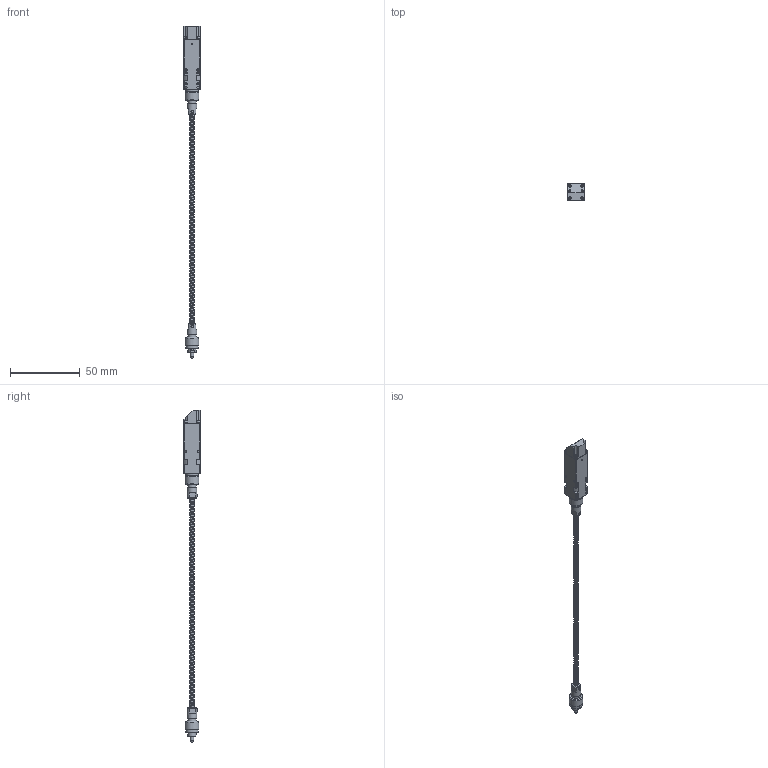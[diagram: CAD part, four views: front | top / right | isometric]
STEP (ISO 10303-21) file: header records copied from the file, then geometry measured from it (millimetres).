
FILE_DESCRIPTION(/* description */ ('IFS2407-2HT/VAC'),/* implementation_level */ '2;1');
FILE_NAME(/* name */ '104319_IFS2407_90-2HT_VAC.stp',/* time_stamp */ '2025-11-28T08:42:00+01:00',/* author */ ('sven'),/* organization */ (''),/* preprocessor_version */ 'ST-DEVELOPER v20.1',/* originating_system */ 'Autodesk Inventor 2026',/* authorisation */ '');
FILE_SCHEMA (('AUTOMOTIVE_DESIGN { 1 0 10303 214 3 1 1 }'));
Products named in the file (7): 104317_IFS2407-2HT-VAC_step; Z_104335.00_Fassung; DIN 914 - M2 x 3; 90010378-1CUS_HTFaser; Linse; 103448_deflectionunit; DIN 84 - M1,4 x 2
Assembly tree (17 placements, depth 2):
  104317_IFS2407-2HT-VAC_step
    Z_104335.00_Fassung
    DIN 914 - M2 x 3  x9
    90010378-1CUS_HTFaser
    Linse
    103448_deflectionunit
    DIN 84 - M1,4 x 2  x4
Bounding box: 12 x 12 x 237.91 mm (x, y, z)
Volume: 8307.5 mm3; surface area: 10129.4 mm2
Topology: 17 solids, 19 shells, 339 faces, 859 edges, 562 vertices
Faces by surface type: plane 168, cylinder 92, cone 63, bspline 8, torus 8
Full cylindrical faces by diameter (mm): 0.729 x2, 1.183 x4, 1.2 x1, 1.238 x4, 1.4 x4, 1.5 x8, 1.567 x16, 2 x11, 2.5 x2, 6 x2, 7 x2, 8.8 x2, 10 x2, 10.6 x1, 11.2 x2
Entity records: 44655 total; most frequent: CARTESIAN_POINT 39057, DIRECTION 1071, ORIENTED_EDGE 1068, EDGE_CURVE 534, AXIS2_PLACEMENT_3D 401, VERTEX_POINT 358, EDGE_LOOP 278, LINE 269
